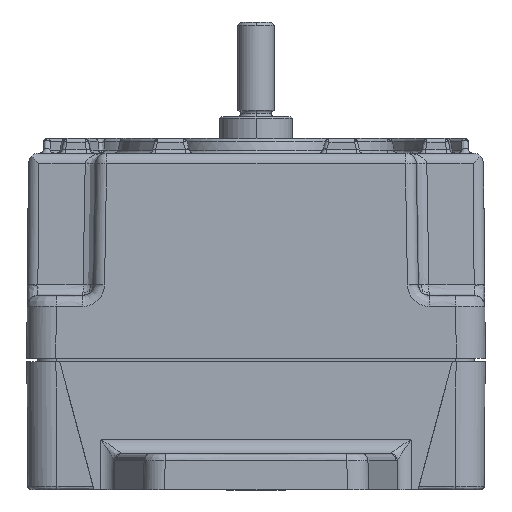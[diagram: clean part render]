
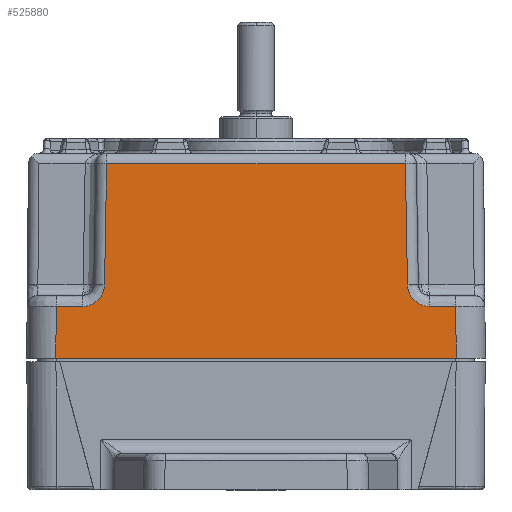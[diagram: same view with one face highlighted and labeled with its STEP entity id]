
A CAD part, left-side view. The second image highlights one B-rep face of the part: STEP entity #525880.
In plain terms, the highlighted planar face has unit normal (-1, 0, 0.009).
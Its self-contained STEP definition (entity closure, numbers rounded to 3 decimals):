
#350990=CARTESIAN_POINT('',(-49.943,23.77,
24.435));
#351000=VERTEX_POINT('',#350990);
#351030=CARTESIAN_POINT('',(-49.943,23.77,
24.435));
#351040=CARTESIAN_POINT('',(-49.943,23.854,
24.435));
#351050=CARTESIAN_POINT('',(-49.943,23.945,
24.433));
#351060=CARTESIAN_POINT('',(-49.943,24.556,
24.433));
#351070=CARTESIAN_POINT('',(-49.943,25.091,
24.433));
#351080=CARTESIAN_POINT('',(-49.943,26.732,
24.433));
#351090=CARTESIAN_POINT('',(-49.943,27.838,
24.433));
#351100=CARTESIAN_POINT('',(-49.943,28.943,
24.433));
#351110=B_SPLINE_CURVE_WITH_KNOTS('',3,(#351030,#351040,#351050,#351060,
#351070,#351080,#351090,#351100),.UNSPECIFIED.,.F.,.F.,(4,2,2,4),(0.,
0.227,1.833,5.15),.UNSPECIFIED.);
#351120=CARTESIAN_POINT('',(-49.943,27.443,
24.433));
#351130=VERTEX_POINT('',#351120);
#351140=EDGE_CURVE('',#351000,#351130,#351110,.T.);
#352390=CARTESIAN_POINT('',(-49.917,20.81,
27.407));
#352400=VERTEX_POINT('',#352390);
#352450=CARTESIAN_POINT('',(-49.917,20.81,
27.407));
#352460=CARTESIAN_POINT('',(-49.917,20.811,
27.398));
#352470=CARTESIAN_POINT('',(-49.917,20.811,
27.388));
#352480=CARTESIAN_POINT('',(-49.918,20.811,
27.369));
#352490=CARTESIAN_POINT('',(-49.918,20.811,
27.359));
#352500=CARTESIAN_POINT('',(-49.918,20.811,
27.344));
#352510=CARTESIAN_POINT('',(-49.918,20.812,
27.312));
#352520=CARTESIAN_POINT('',(-49.918,20.814,
27.262));
#352530=CARTESIAN_POINT('',(-49.919,20.817,
27.217));
#352540=CARTESIAN_POINT('',(-49.92,20.826,
27.113));
#352550=CARTESIAN_POINT('',(-49.921,20.836,
27.028));
#352560=CARTESIAN_POINT('',(-49.925,20.923,
26.497));
#352570=CARTESIAN_POINT('',(-49.93,21.129,
25.996));
#352580=CARTESIAN_POINT('',(-49.936,21.737,
25.208));
#352590=CARTESIAN_POINT('',(-49.939,22.136,
24.894));
#352600=CARTESIAN_POINT('',(-49.942,22.816,
24.592));
#352610=CARTESIAN_POINT('',(-49.942,23.068,
24.517));
#352620=CARTESIAN_POINT('',(-49.943,23.35,
24.468));
#352630=CARTESIAN_POINT('',(-49.943,23.405,
24.461));
#352640=CARTESIAN_POINT('',(-49.943,23.556,
24.445));
#352650=CARTESIAN_POINT('',(-49.943,23.667,
24.439));
#352660=CARTESIAN_POINT('',(-49.943,23.77,
24.435));
#352670=B_SPLINE_CURVE_WITH_KNOTS('',3,(#352450,#352460,#352470,#352480,
#352490,#352500,#352510,#352520,#352530,#352540,#352550,#352560,#352570,
#352580,#352590,#352600,#352610,#352620,#352630,#352640,#352650,#352660)
,.UNSPECIFIED.,.F.,.F.,(4,2,2,2,2,2,2,2,2,2,4),(0.,0.466,
0.931,1.088,1.275,1.532,
2.98,4.413,5.122,5.294,
5.596),.UNSPECIFIED.);
#352680=EDGE_CURVE('',#352400,#351000,#352670,.T.);
#353920=CARTESIAN_POINT('',(-49.772,20.52,
44.013));
#353930=VERTEX_POINT('',#353920);
#353960=CARTESIAN_POINT('',(-49.794,20.563,
41.513));
#353970=DIRECTION('',(-0.009,0.017,
-1.));
#353980=VECTOR('',#353970,1.);
#353990=LINE('',#353960,#353980);
#354000=EDGE_CURVE('',#353930,#352400,#353990,.T.);
#380990=CARTESIAN_POINT('',(-50.005,27.506,
17.3));
#381000=VERTEX_POINT('',#380990);
#381030=CARTESIAN_POINT('',(-50.005,7.697,
17.3));
#381040=DIRECTION('',(0.,1.,0.));
#381050=VECTOR('',#381040,1.);
#381060=LINE('',#381030,#381050);
#381070=CARTESIAN_POINT('',(-50.005,-27.506,
17.3));
#381080=VERTEX_POINT('',#381070);
#381090=EDGE_CURVE('',#381080,#381000,#381060,.T.);
#473420=CARTESIAN_POINT('',(-49.943,-27.443,
24.433));
#473430=VERTEX_POINT('',#473420);
#525000=CARTESIAN_POINT('',(-49.943,-23.77,
24.435));
#525010=CARTESIAN_POINT('',(-49.943,-23.854,
24.435));
#525020=CARTESIAN_POINT('',(-49.943,-23.945,
24.433));
#525030=CARTESIAN_POINT('',(-49.943,-24.556,
24.433));
#525040=CARTESIAN_POINT('',(-49.943,-25.091,
24.433));
#525050=CARTESIAN_POINT('',(-49.943,-26.732,
24.433));
#525060=CARTESIAN_POINT('',(-49.943,-27.838,
24.433));
#525070=CARTESIAN_POINT('',(-49.943,-28.943,
24.433));
#525080=B_SPLINE_CURVE_WITH_KNOTS('',3,(#525000,#525010,#525020,#525030,
#525040,#525050,#525060,#525070),.UNSPECIFIED.,.F.,.F.,(4,2,2,4),(0.,
0.227,1.833,5.15),.UNSPECIFIED.);
#525090=CARTESIAN_POINT('',(-49.943,-23.77,
24.435));
#525100=VERTEX_POINT('',#525090);
#525110=EDGE_CURVE('',#525100,#473430,#525080,.T.);
#525230=CARTESIAN_POINT('',(-50.,-7.697,
17.92));
#525240=DIRECTION('',(1.,0.,-0.009));
#525250=DIRECTION('',(0.,-1.,0.));
#525260=AXIS2_PLACEMENT_3D('',#525230,#525240,#525250);
#525270=PLANE('',#525260);
#525280=ORIENTED_EDGE('',*,*,#381090,.F.);
#525290=CARTESIAN_POINT('',(-49.947,27.447,
24.003));
#525300=DIRECTION('',(-0.009,0.009,
-1.));
#525310=VECTOR('',#525300,1.);
#525320=LINE('',#525290,#525310);
#525330=EDGE_CURVE('',#351130,#381000,#525320,.T.);
#525340=ORIENTED_EDGE('',*,*,#525330,.T.);
#525350=ORIENTED_EDGE('',*,*,#351140,.T.);
#525360=ORIENTED_EDGE('',*,*,#352680,.T.);
#525370=ORIENTED_EDGE('',*,*,#354000,.T.);
#525380=CARTESIAN_POINT('',(-49.772,-7.697,
44.013));
#525390=DIRECTION('',(0.,1.,0.));
#525400=VECTOR('',#525390,1.);
#525410=LINE('',#525380,#525400);
#525420=CARTESIAN_POINT('',(-49.772,-20.52,
44.013));
#525430=VERTEX_POINT('',#525420);
#525440=EDGE_CURVE('',#525430,#353930,#525410,.T.);
#525450=ORIENTED_EDGE('',*,*,#525440,.T.);
#525460=CARTESIAN_POINT('',(-49.794,-20.563,
41.513));
#525470=DIRECTION('',(-0.009,-0.017,
-1.));
#525480=VECTOR('',#525470,1.);
#525490=LINE('',#525460,#525480);
#525500=CARTESIAN_POINT('',(-49.917,-20.81,
27.407));
#525510=VERTEX_POINT('',#525500);
#525520=EDGE_CURVE('',#525430,#525510,#525490,.T.);
#525530=ORIENTED_EDGE('',*,*,#525520,.F.);
#525540=CARTESIAN_POINT('',(-49.917,-20.81,
27.407));
#525550=CARTESIAN_POINT('',(-49.917,-20.811,
27.398));
#525560=CARTESIAN_POINT('',(-49.917,-20.811,
27.388));
#525570=CARTESIAN_POINT('',(-49.918,-20.811,
27.369));
#525580=CARTESIAN_POINT('',(-49.918,-20.811,
27.359));
#525590=CARTESIAN_POINT('',(-49.918,-20.811,
27.344));
#525600=CARTESIAN_POINT('',(-49.918,-20.812,
27.312));
#525610=CARTESIAN_POINT('',(-49.918,-20.814,
27.262));
#525620=CARTESIAN_POINT('',(-49.919,-20.817,
27.217));
#525630=CARTESIAN_POINT('',(-49.92,-20.826,
27.113));
#525640=CARTESIAN_POINT('',(-49.921,-20.836,
27.028));
#525650=CARTESIAN_POINT('',(-49.925,-20.923,
26.497));
#525660=CARTESIAN_POINT('',(-49.93,-21.129,
25.996));
#525670=CARTESIAN_POINT('',(-49.936,-21.737,
25.208));
#525680=CARTESIAN_POINT('',(-49.939,-22.136,
24.894));
#525690=CARTESIAN_POINT('',(-49.942,-22.816,
24.592));
#525700=CARTESIAN_POINT('',(-49.942,-23.068,
24.517));
#525710=CARTESIAN_POINT('',(-49.943,-23.35,
24.468));
#525720=CARTESIAN_POINT('',(-49.943,-23.405,
24.461));
#525730=CARTESIAN_POINT('',(-49.943,-23.556,
24.445));
#525740=CARTESIAN_POINT('',(-49.943,-23.667,
24.439));
#525750=CARTESIAN_POINT('',(-49.943,-23.77,
24.435));
#525760=B_SPLINE_CURVE_WITH_KNOTS('',3,(#525540,#525550,#525560,#525570,
#525580,#525590,#525600,#525610,#525620,#525630,#525640,#525650,#525660,
#525670,#525680,#525690,#525700,#525710,#525720,#525730,#525740,#525750)
,.UNSPECIFIED.,.F.,.F.,(4,2,2,2,2,2,2,2,2,2,4),(0.,0.466,
0.931,1.088,1.275,1.532,
2.98,4.413,5.122,5.294,
5.596),.UNSPECIFIED.);
#525770=EDGE_CURVE('',#525510,#525100,#525760,.T.);
#525780=ORIENTED_EDGE('',*,*,#525770,.F.);
#525790=ORIENTED_EDGE('',*,*,#525110,.F.);
#525800=CARTESIAN_POINT('',(-49.947,-27.447,
24.003));
#525810=DIRECTION('',(-0.009,-0.009,
-1.));
#525820=VECTOR('',#525810,1.);
#525830=LINE('',#525800,#525820);
#525840=EDGE_CURVE('',#473430,#381080,#525830,.T.);
#525850=ORIENTED_EDGE('',*,*,#525840,.F.);
#525860=EDGE_LOOP('',(#525850,#525790,#525780,#525530,#525450,#525370,
#525360,#525350,#525340,#525280));
#525870=FACE_OUTER_BOUND('',#525860,.T.);
#525880=ADVANCED_FACE('',(#525870),#525270,.F.);
